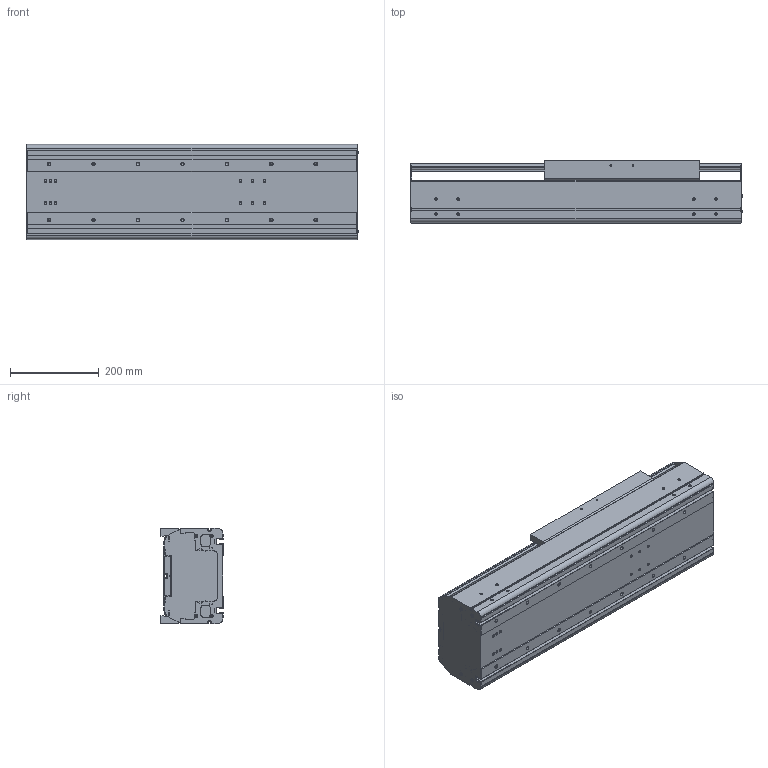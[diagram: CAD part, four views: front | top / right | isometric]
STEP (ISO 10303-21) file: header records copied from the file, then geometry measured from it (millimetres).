
FILE_DESCRIPTION((''),'2;1');
FILE_NAME('BE60G-ST-L_B-25_IGS_PRT','2017-06-18T',(' '),(''),'PRO/ENGINEER BY PARAMETRIC TECHNOLOGY CORPORATION, 2015030','PRO/ENGINEER BY PARAMETRIC TECHNOLOGY CORPORATION, 2015030','');
FILE_SCHEMA(('CONFIG_CONTROL_DESIGN'));
Length unit declared in the file: millimetre
Products named in the file (1): BE60G-ST-L_B-25_IGS_PRT
Bounding box: 747.4 x 140 x 214 mm (x, y, z)
Volume: 6961213.7 mm3; surface area: 1792879.7 mm2
Topology: 2 solids, 108 shells, 1378 faces, 3790 edges, 2477 vertices
Faces by surface type: cylinder 664, plane 578, cone 88, sphere 24, torus 24
Entity records: 45150 total; most frequent: CARTESIAN_POINT 9646, DIRECTION 7550, ORIENTED_EDGE 6992, EDGE_CURVE 3704, AXIS2_PLACEMENT_3D 2777, VERTEX_POINT 2476, VECTOR 1996, LINE 1996
